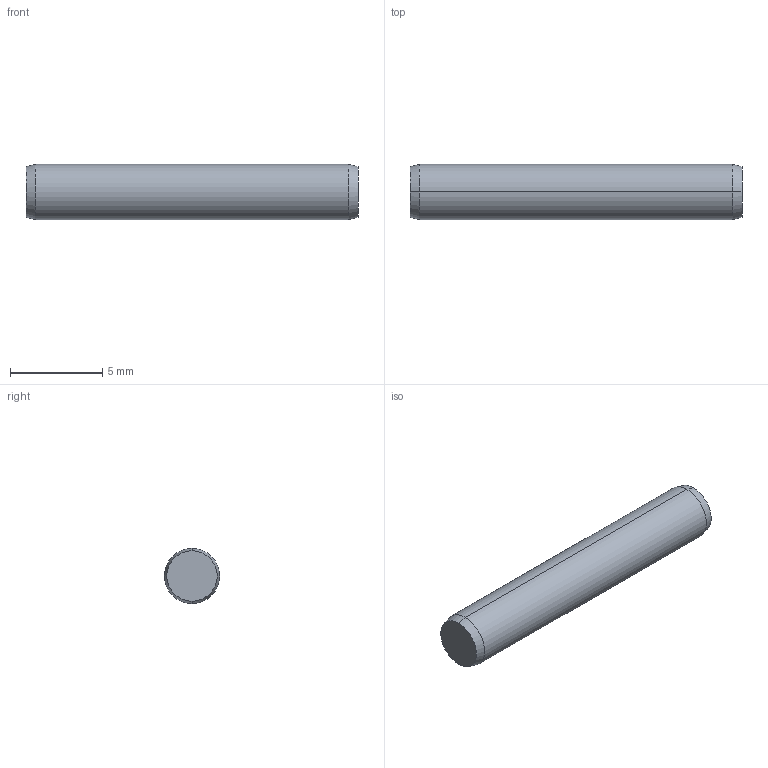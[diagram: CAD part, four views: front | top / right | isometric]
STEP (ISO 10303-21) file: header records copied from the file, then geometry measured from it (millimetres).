
FILE_DESCRIPTION (( 'STEP AP203' ), '1' );
FILE_NAME ('P1206.030-018.step', '2017-06-14T08:04:59', ( 'User' ), ( '' ), 'SwSTEP 2.0', 'SolidWorks 2009', '' );
FILE_SCHEMA (( 'CONFIG_CONTROL_DESIGN' ));
Length unit declared in the file: millimetre
Products named in the file (1): P1206.030-018
Bounding box: 18 x 3 x 3 mm (x, y, z)
Volume: 126.6 mm3; surface area: 181.3 mm2
Topology: 1 solids, 1 shells, 8 faces, 14 edges, 8 vertices
Faces by surface type: cone 4, cylinder 2, plane 2
Entity records: 271 total; most frequent: DIRECTION 40, CARTESIAN_POINT 31, ORIENTED_EDGE 28, AXIS2_PLACEMENT_3D 17, EDGE_CURVE 14, PERSON_AND_ORGANIZATION 8, FACE_OUTER_BOUND 8, CIRCLE 8
